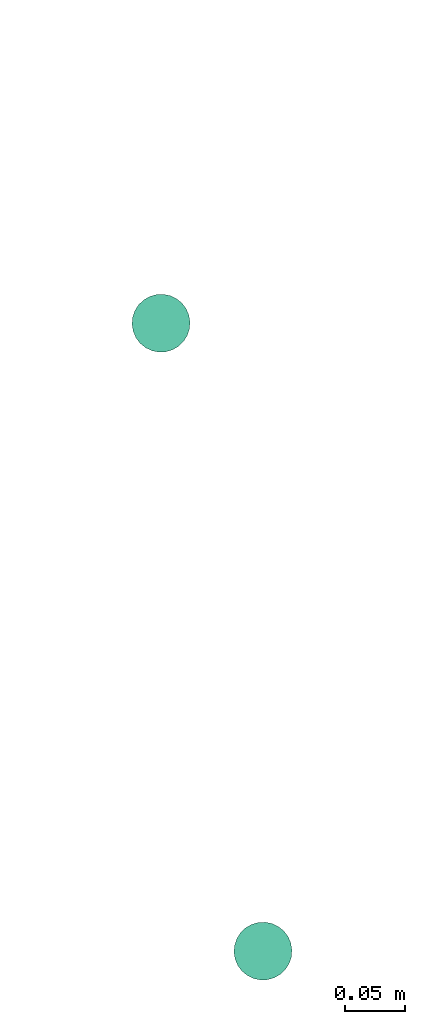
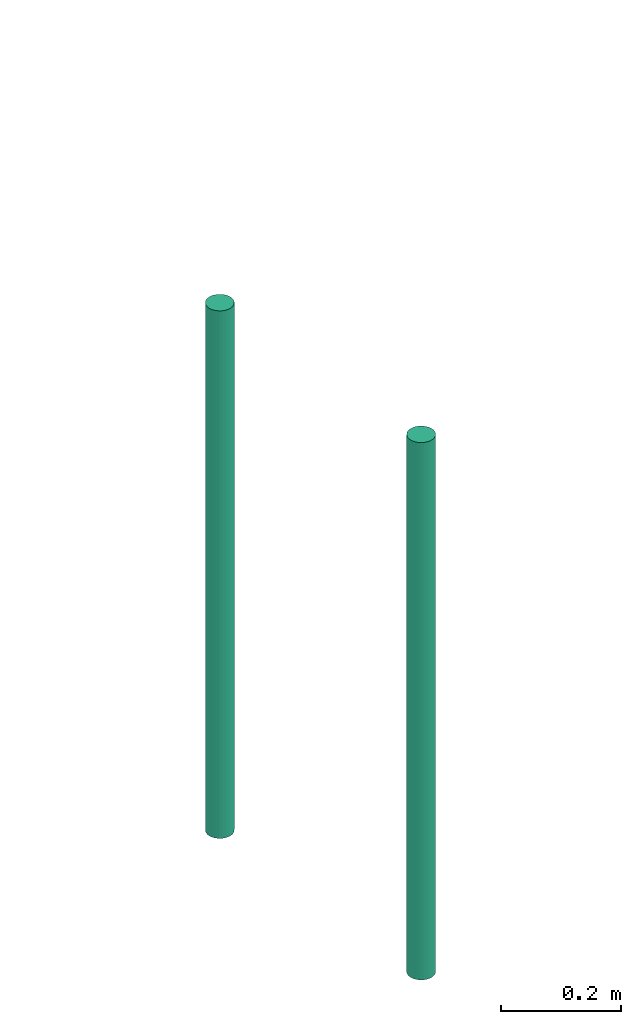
# One storey, part 1 of 2: 2 flow segments.
"""IFC2X3 building model written with IfcOpenShell, lengths in millimetres."""

from ifc_helpers import new_model, entity, si_unit, converted_unit, derived_unit, direction, frame, frame_2d, origin, origin_with_axes, place, context, subcontext, project, spatial, circle, extrude, type_object, element, save


model = new_model("IFC2X3")

# Units and contexts
plan_context = context("Plan", 3, precision=1e-05, world=origin_with_axes())
model_context = context("Model", 3, precision=0.01, world=origin(), true_north=direction((6.12323399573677e-17, 1.0)))
body_context = subcontext(model_context, "Body", "Model", "MODEL_VIEW")
ifc_project = project(units=[converted_unit("PLANEANGLEUNIT", "DEGREE", entity("IfcPositiveLengthMeasure", 0.0174532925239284), si_unit("PLANEANGLEUNIT", "RADIAN"), dimensions=[0, 0, 0, 0, 0, 0, 0]), si_unit("AREAUNIT", "SQUARE_METRE"), si_unit("LENGTHUNIT", "METRE", prefix="MILLI"), si_unit("MASSUNIT", "GRAM", prefix="KILO"), si_unit("POWERUNIT", "WATT"), si_unit("PRESSUREUNIT", "PASCAL", prefix="KILO"), si_unit("FORCEUNIT", "NEWTON", prefix="KILO"), si_unit("ELECTRICVOLTAGEUNIT", "VOLT"), si_unit("ELECTRICCURRENTUNIT", "AMPERE"), si_unit("THERMODYNAMICTEMPERATUREUNIT", "DEGREE_CELSIUS"), si_unit("TIMEUNIT", "SECOND"), si_unit("VOLUMEUNIT", "CUBIC_METRE"), derived_unit("LINEARVELOCITYUNIT", [(si_unit("LENGTHUNIT", "METRE"), 1), (si_unit("TIMEUNIT", "SECOND"), -1)]), derived_unit("VOLUMETRICFLOWRATEUNIT", [(si_unit("VOLUMEUNIT", "CUBIC_METRE"), 1), (si_unit("TIMEUNIT", "SECOND"), -1)]), derived_unit("THERMALTRANSMITTANCEUNIT", [(si_unit("POWERUNIT", "WATT"), 1), (si_unit("THERMODYNAMICTEMPERATUREUNIT", "KELVIN"), -1), (si_unit("AREAUNIT", "SQUARE_METRE"), -1)]), derived_unit("SOUNDPRESSUREUNIT", [(si_unit("PRESSUREUNIT", "PASCAL"), 1)])], contexts=[model_context, plan_context])

# Site, building, storey
site_placement = place(None, frame((-0.00071070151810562, 0.00438415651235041, 0.0), z_axis=(0.0, 0.0, 1.0), x_axis=(-0.160236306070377, 0.987078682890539, 0.0)))
site = spatial("IfcSite", under=ifc_project, at=site_placement, Name="Default", CompositionType="ELEMENT")
building_placement = place(site_placement, origin_with_axes())
building = spatial("IfcBuilding", under=site, at=building_placement, CompositionType="ELEMENT")
storey_placement = place(building_placement, frame((0.0, 0.0, 55630.0), z_axis=(0.0, 0.0, 1.0), x_axis=(1.0, 0.0, 0.0)))
storey = spatial("IfcBuildingStorey", under=building, at=storey_placement, Name="Nivå E", CompositionType="ELEMENT", Elevation=55630.0)

# Flow segments
pipe_segment_type = type_object("IfcPipeSegmentType", Name="Pipe Types:Stålrør syrefast AISI 316", PredefinedType="NOTDEFINED")
flow_segment_1_placement = place(storey_placement, origin_with_axes())
element("IfcFlowSegment", 1, at=flow_segment_1_placement, inside=storey, type_object=pipe_segment_type, Name="Pipe Types:Stålrør syrefast AISI 316", ObjectType="Pipe Types:Stålrør syrefast AISI 316", context=body_context, shape_type="SweptSolid", body=[
    extrude(circle(Radius=24.1499996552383, at=frame_2d((0.0, -6.93034962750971e-11), x_axis=(1.0, 0.0))), frame((771916.919644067, -501321.51993202, 2298.4), z_axis=(0.0, 0.0, 1.0), x_axis=(-1.0, 0.0, 0.0)), (0.0, 0.0, 1.0), 1071.60000000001),
])
flow_segment_2_placement = place(storey_placement, origin_with_axes())
element("IfcFlowSegment", 2, at=flow_segment_2_placement, inside=storey, type_object=pipe_segment_type, Name="Pipe Types:Stålrør syrefast AISI 316", ObjectType="Pipe Types:Stålrør syrefast AISI 316", context=body_context, shape_type="SweptSolid", body=[
    extrude(circle(Radius=24.1499996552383, at=frame_2d((0.0, 6.93034962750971e-11), x_axis=(1.0, 0.0))), frame((771386.919644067, -501321.51993202, 2298.4), z_axis=(0.0, 0.0, 1.0), x_axis=(-1.0, 0.0, 0.0)), (0.0, 0.0, 1.0), 1091.6),
])

save(model, "model.ifc")
